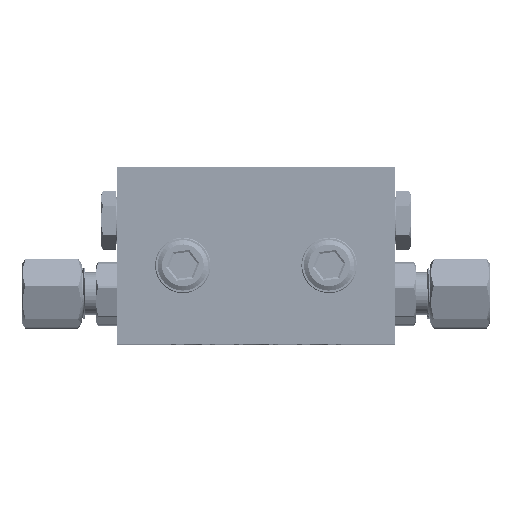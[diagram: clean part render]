
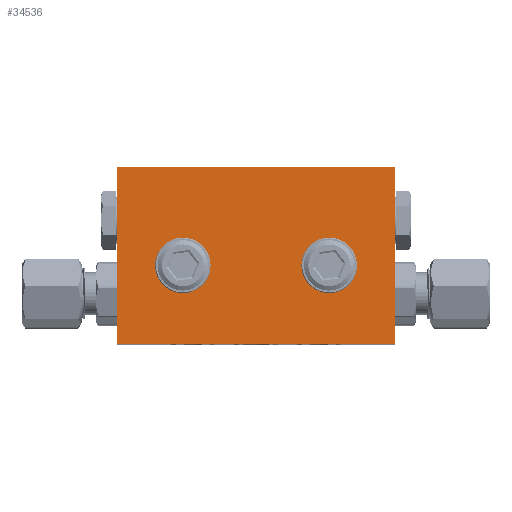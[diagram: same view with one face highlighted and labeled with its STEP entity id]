
A CAD part, top view. The second image highlights one B-rep face of the part: STEP entity #34536.
In plain terms, the highlighted planar face has unit normal (0, 0, 1) as drawn and (0, 0, -1) by its records, which use the part's own axes.
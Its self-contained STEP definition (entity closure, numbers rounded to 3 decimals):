
#1141 = LINE ( 'NONE', #22236, #22092 ) ;
#1359 = DIRECTION ( 'NONE',  ( 0., 1., 0. ) ) ;
#1430 = EDGE_CURVE ( 'NONE', #9679, #9679, #6378, .T. ) ;
#2401 = DIRECTION ( 'NONE',  ( 1., 0., 0. ) ) ;
#3544 = DIRECTION ( 'NONE',  ( 0., 0., -1. ) ) ;
#3999 = EDGE_LOOP ( 'NONE', ( #36568 ) ) ;
#4238 = DIRECTION ( 'NONE',  ( -1., 0., 0. ) ) ;
#4241 = DIRECTION ( 'NONE',  ( 1., 0., 0. ) ) ;
#4902 = VECTOR ( 'NONE', #4238, 1000. ) ;
#5918 = VECTOR ( 'NONE', #13176, 1000. ) ;
#6378 = CIRCLE ( 'NONE', #9199, 3.1 ) ;
#6942 = EDGE_CURVE ( 'NONE', #36149, #42268, #27815, .T. ) ;
#8313 = AXIS2_PLACEMENT_3D ( 'NONE', #9020, #14432, #4241 ) ;
#9020 = CARTESIAN_POINT ( 'NONE',  ( -14.5, -15.5, -4.85 ) ) ;
#9071 = FACE_OUTER_BOUND ( 'NONE', #27795, .T. ) ;
#9199 = AXIS2_PLACEMENT_3D ( 'NONE', #34019, #3544, #27786 ) ;
#9679 = VERTEX_POINT ( 'NONE', #39765 ) ;
#11075 = CARTESIAN_POINT ( 'NONE',  ( 0., 0., -4.85 ) ) ;
#13176 = DIRECTION ( 'NONE',  ( 1., 0., 0. ) ) ;
#13552 = CARTESIAN_POINT ( 'NONE',  ( 27.5, 0., -4.85 ) ) ;
#14432 = DIRECTION ( 'NONE',  ( 0., 0., -1. ) ) ;
#15079 = CARTESIAN_POINT ( 'NONE',  ( -11.4, -15.5, -4.85 ) ) ;
#16096 = CIRCLE ( 'NONE', #8313, 3.1 ) ;
#19301 = CARTESIAN_POINT ( 'NONE',  ( 0., 0., -4.85 ) ) ;
#19883 = CARTESIAN_POINT ( 'NONE',  ( 0., -35., -4.85 ) ) ;
#20437 = EDGE_LOOP ( 'NONE', ( #43496 ) ) ;
#21699 = DIRECTION ( 'NONE',  ( 0., -1., 0. ) ) ;
#22092 = VECTOR ( 'NONE', #1359, 1000. ) ;
#22236 = CARTESIAN_POINT ( 'NONE',  ( 27.5, 0., -4.85 ) ) ;
#23097 = DIRECTION ( 'NONE',  ( 0., 0., 1. ) ) ;
#23669 = EDGE_CURVE ( 'NONE', #24287, #41684, #30148, .T. ) ;
#24287 = VERTEX_POINT ( 'NONE', #39330 ) ;
#24540 = EDGE_CURVE ( 'NONE', #42268, #24287, #38193, .T. ) ;
#24845 = CARTESIAN_POINT ( 'NONE',  ( -27.5, 0., -4.85 ) ) ;
#27786 = DIRECTION ( 'NONE',  ( -1., 0., 0. ) ) ;
#27795 = EDGE_LOOP ( 'NONE', ( #28059, #40404, #28221, #28505 ) ) ;
#27815 = LINE ( 'NONE', #11075, #4902 ) ;
#28059 = ORIENTED_EDGE ( 'NONE', *, *, #23669, .F. ) ;
#28221 = ORIENTED_EDGE ( 'NONE', *, *, #6942, .F. ) ;
#28505 = ORIENTED_EDGE ( 'NONE', *, *, #31826, .F. ) ;
#30015 = FACE_BOUND ( 'NONE', #3999, .T. ) ;
#30148 = LINE ( 'NONE', #19883, #5918 ) ;
#31826 = EDGE_CURVE ( 'NONE', #41684, #36149, #1141, .T. ) ;
#32460 = VERTEX_POINT ( 'NONE', #15079 ) ;
#33294 = AXIS2_PLACEMENT_3D ( 'NONE', #19301, #23097, #2401 ) ;
#33632 = VECTOR ( 'NONE', #21699, 1000. ) ;
#34019 = CARTESIAN_POINT ( 'NONE',  ( 14.5, -15.5, -4.85 ) ) ;
#34511 = CARTESIAN_POINT ( 'NONE',  ( 27.5, -35., -4.85 ) ) ;
#34536 = ADVANCED_FACE ( 'NONE', ( #30015, #43580, #9071 ), #43133, .F. ) ;
#36149 = VERTEX_POINT ( 'NONE', #13552 ) ;
#36362 = EDGE_CURVE ( 'NONE', #32460, #32460, #16096, .T. ) ;
#36568 = ORIENTED_EDGE ( 'NONE', *, *, #36362, .F. ) ;
#38193 = LINE ( 'NONE', #24845, #33632 ) ;
#39330 = CARTESIAN_POINT ( 'NONE',  ( -27.5, -35., -4.85 ) ) ;
#39765 = CARTESIAN_POINT ( 'NONE',  ( 11.4, -15.5, -4.85 ) ) ;
#40404 = ORIENTED_EDGE ( 'NONE', *, *, #24540, .F. ) ;
#40412 = CARTESIAN_POINT ( 'NONE',  ( -27.5, 0., -4.85 ) ) ;
#41684 = VERTEX_POINT ( 'NONE', #34511 ) ;
#42268 = VERTEX_POINT ( 'NONE', #40412 ) ;
#43133 = PLANE ( 'NONE',  #33294 ) ;
#43496 = ORIENTED_EDGE ( 'NONE', *, *, #1430, .F. ) ;
#43580 = FACE_BOUND ( 'NONE', #20437, .T. ) ;
